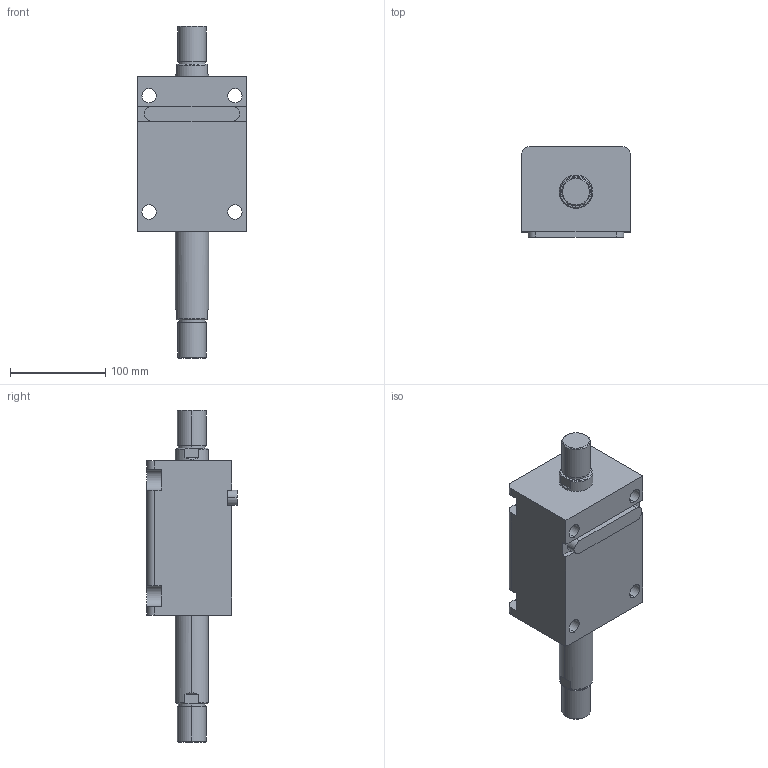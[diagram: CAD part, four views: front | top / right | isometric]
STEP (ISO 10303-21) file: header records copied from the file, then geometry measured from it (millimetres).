
FILE_DESCRIPTION (( 'STEP AP203' ), '1' );
FILE_NAME ('HTB-LW63-80W.STEP', '2019-10-09T08:28:56', ( '微软用户' ), ( '微软中国' ), 'SwSTEP 2.0', 'SolidWorks 2012', '' );
FILE_SCHEMA (( 'CONFIG_CONTROL_DESIGN' ));
Length unit declared in the file: millimetre
Products named in the file (4): HTB-LW63-80W; HTB-LA63-瑩; HTB-LW63-80W活塞杆; HTB-LW63-80掛极
Assembly tree (3 placements, depth 2):
  HTB-LW63-80W
    HTB-LW63-80掛极
    HTB-LW63-80W活塞杆
    HTB-LA63-瑩
Bounding box: 114 x 94.5 x 348 mm (x, y, z)
Volume: 1549210.2 mm3; surface area: 180819.7 mm2
Topology: 3 solids, 3 shells, 109 faces, 265 edges, 174 vertices
Faces by surface type: plane 48, cylinder 45, cone 12, torus 4
Entity records: 3679 total; most frequent: CARTESIAN_POINT 610, DIRECTION 593, ORIENTED_EDGE 530, EDGE_CURVE 265, AXIS2_PLACEMENT_3D 229, VERTEX_POINT 174, VECTOR 135, LINE 135
